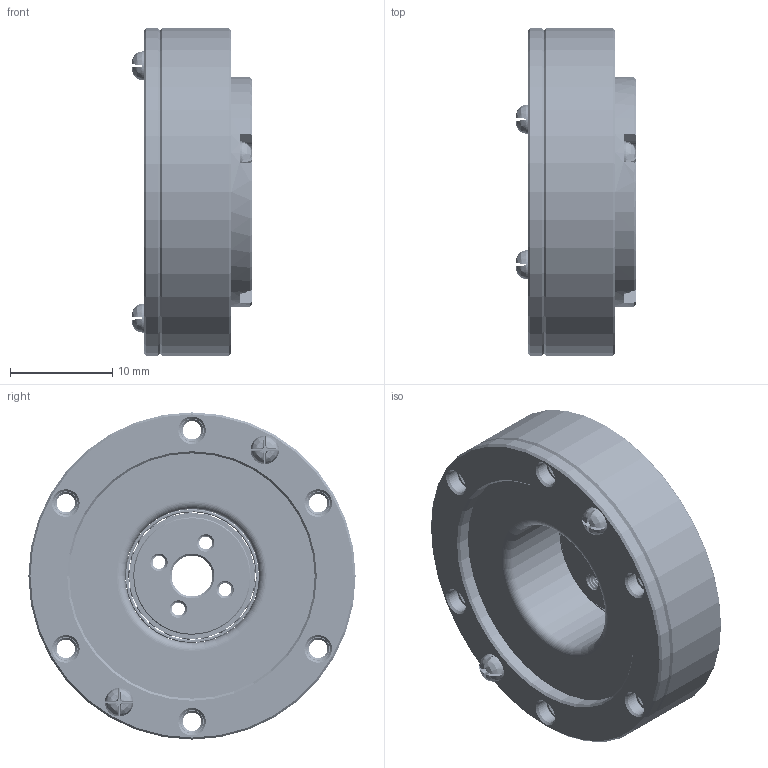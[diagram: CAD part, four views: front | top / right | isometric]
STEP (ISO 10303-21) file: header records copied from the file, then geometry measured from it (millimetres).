
FILE_DESCRIPTION(/* description */ (''),/* implementation_level */ '2;1');
FILE_NAME(/* name */ 'XBD05成品图.prt.stp',/* time_stamp */ '2022-07-23T08:37:51+08:00',/* author */ (''),/* organization */ (''),/* preprocessor_version */ 'ST-DEVELOPER v16',/* originating_system */ 'SIEMENS PLM Software NX 10.0',/* authorisation */ '');
FILE_SCHEMA (('CONFIG_CONTROL_DESIGN'));
Products named in the file (12): 05-柔性轴承保持架; XBD05-4-1-1销子; XBD05-2柔轮; XBD05-3-1凸轮; 平圆头十字螺钉M1.6X4; XBD05-1钢轮; φ25X1.5 O型圈; φ2X1.9滚针; XBD05-4-2外圈; 05-柔性轴承_MODEL; XBD05-4-1内芯_MODEL; XBD05成品图
Assembly tree (52 placements, depth 3):
  XBD05成品图
    XBD05-4-2外圈
    XBD05-4-1内芯_MODEL
      XBD05-4-1-1销子
      平圆头十字螺钉M1.6X4
    φ2X1.9滚针  x36
    φ25X1.5 O型圈
    XBD05-1钢轮
    平圆头十字螺钉M1.6X4  x6
    05-柔性轴承_MODEL
      05-柔性轴承保持架
    XBD05-3-1凸轮
    XBD05-2柔轮
Bounding box: 11.7 x 32 x 32 mm (x, y, z)
Volume: 5105.8 mm3; surface area: 9537.3 mm2
Topology: 74 solids, 74 shells, 1834 faces, 4707 edges, 2978 vertices
Faces by surface type: cylinder 874, plane 398, cone 284, torus 153, bspline 104, sphere 21
Full cylindrical faces by diameter (mm): 2.3 x8, 9.8 x1, 10.4 x2, 12.48 x2, 13.08 x1, 13.1 x1, 14.2 x1, 24 x1, 32 x1
Entity records: 103421 total; most frequent: CARTESIAN_POINT 73038, ORIENTED_EDGE 6290, DIRECTION 4971, EDGE_CURVE 3145, VERTEX_POINT 2075, AXIS2_PLACEMENT_3D 1860, EDGE_LOOP 1341, LINE 1251
